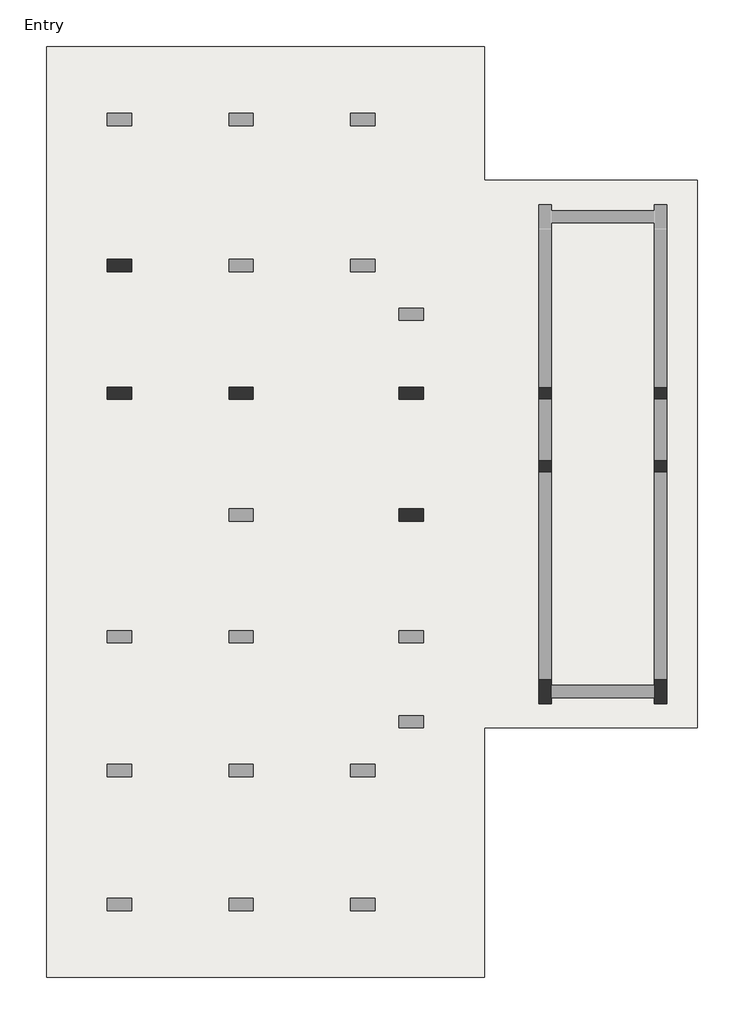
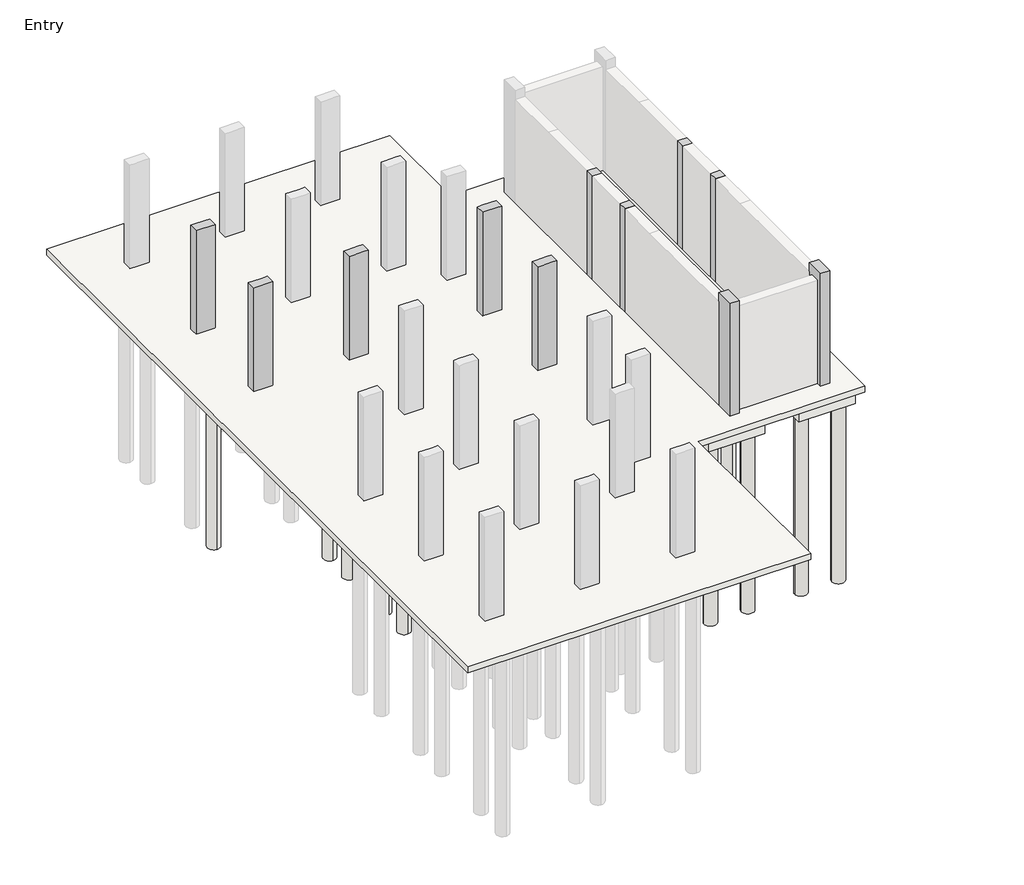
# One storey, part 2 of 3: 31 slabs, 14 columns, 4 footings.
"""IFC4 building model written with IfcOpenShell, lengths in millimetres."""

import ifcopenshell
import ifcopenshell.guid

model = None  # the IFC model being written
_history = None  # IfcOwnerHistory: only IFC2X3 demands one
_inside = {}  # id of a spatial element -> (the spatial element, [elements in it])
_under = {}  # id of a project, library or spatial element -> (it, [spatial elements below it])
_declared = {}  # id of a project -> (the project, [libraries it declares])
_typed = {}  # id of a type object -> (the type object, [elements of that type])
_made_of = {}  # id of a material, layer set ... -> (it, [elements and type objects made of it])


def new_model(schema):
    """Start an empty IFC model of exactly this schema.

    Asked for "IFC4X3", IfcOpenShell would pick the latest addendum, in which some entities
    have other attributes; the version numbers below select the first issue.
    IFC2X3 requires an IfcOwnerHistory on every rooted entity: one is made here for all.
    """
    global model, _history
    if schema == "IFC4X3":
        model = ifcopenshell.file(schema_version=(4, 3, 0, 0))
    else:
        model = ifcopenshell.file(schema=schema)
    _inside.clear()
    _under.clear()
    _declared.clear()
    _typed.clear()
    _made_of.clear()
    _history = None
    if model.schema == "IFC2X3":
        org = make("IfcOrganization", Name="unknown")
        user = make(
            "IfcPersonAndOrganization",
            ThePerson=make("IfcPerson", FamilyName="unknown"),
            TheOrganization=org,
        )
        app = make(
            "IfcApplication",
            ApplicationDeveloper=org,
            Version="unknown",
            ApplicationFullName="unknown",
            ApplicationIdentifier="unknown",
        )
        _history = make(
            "IfcOwnerHistory",
            OwningUser=user,
            OwningApplication=app,
            ChangeAction="ADDED",
            CreationDate=0,
        )
    return model


def make(cls, **values):
    """One entity of the class cls with the attributes given. An attribute that is None is left unset."""
    return model.create_entity(
        cls, **{name: value for name, value in values.items() if value is not None}
    )


def rooted(cls, **values):
    """An entity with a GlobalId (a new one), such as an element, a storey or a relation."""
    return make(cls, GlobalId=ifcopenshell.guid.new(), OwnerHistory=_history, **values)


def si_unit(unit_type, name, prefix=None):
    """IfcSIUnit, for example si_unit("LENGTHUNIT", "METRE", prefix="MILLI")."""
    return make("IfcSIUnit", UnitType=unit_type, Prefix=prefix, Name=name)


def assignment(units):
    """IfcUnitAssignment: the units of a project."""
    return None if units is None else make("IfcUnitAssignment", Units=units)


def point(xyz):
    """IfcCartesianPoint."""
    return None if xyz is None else make("IfcCartesianPoint", Coordinates=xyz)


def direction(xyz):
    """IfcDirection."""
    return None if xyz is None else make("IfcDirection", DirectionRatios=xyz)


def frame(location, z_axis=None, x_axis=None):
    """IfcAxis2Placement3D, a coordinate frame: its origin and axes. An axis left out is left unset."""
    return make(
        "IfcAxis2Placement3D",
        Location=point(location),
        Axis=direction(z_axis),
        RefDirection=direction(x_axis),
    )


def frame_2d(location, x_axis=None):
    """IfcAxis2Placement2D, a coordinate frame in the plane: its origin and x axis."""
    return make(
        "IfcAxis2Placement2D", Location=point(location), RefDirection=direction(x_axis)
    )


def origin():
    """The frame at (0, 0, 0) with its axes left unset."""
    return frame((0.0, 0.0, 0.0))


def origin_with_axes():
    """The frame at (0, 0, 0) with the z axis (0, 0, 1) and the x axis (1, 0, 0) written out."""
    return frame((0.0, 0.0, 0.0), z_axis=(0.0, 0.0, 1.0), x_axis=(1.0, 0.0, 0.0))


def place(relative_to, where):
    """IfcLocalPlacement: puts the frame where relative to a parent placement (None: the world)."""
    return make(
        "IfcLocalPlacement", PlacementRelTo=relative_to, RelativePlacement=where
    )


def context(
    kind, dimensions, precision=None, world=None, true_north=None, identifier=None
):
    """IfcGeometricRepresentationContext, for example the 3D "Model" context."""
    return make(
        "IfcGeometricRepresentationContext",
        ContextIdentifier=identifier,
        ContextType=kind,
        CoordinateSpaceDimension=dimensions,
        Precision=precision,
        WorldCoordinateSystem=world,
        TrueNorth=true_north,
    )


def project(units=None, contexts=None):
    """IfcProject with its units and contexts."""
    return rooted(
        "IfcProject",
        Name="project",
        RepresentationContexts=contexts,
        UnitsInContext=assignment(units),
    )


def spatial(cls, under=None, at=None, **own):
    """A site, building, storey or space (cls), placed at a placement, below another one or the project."""
    s = rooted(cls, ObjectPlacement=at, **own)
    if under is not None:
        _under.setdefault(under.id(), (under, []))[1].append(s)
    return s


def polyline(points):
    """IfcPolyline through the points."""
    return make("IfcPolyline", Points=[point(p) for p in points])


def circle_curve(where, radius):
    """IfcCircle in the frame where."""
    return make("IfcCircle", Position=where, Radius=radius)


def trimmed(basis, trim1, trim2, sense, master):
    """IfcTrimmedCurve: the piece of a basis curve between two trims."""
    return make(
        "IfcTrimmedCurve",
        BasisCurve=basis,
        Trim1=trim1,
        Trim2=trim2,
        SenseAgreement=sense,
        MasterRepresentation=master,
    )


def segment(curve, same_sense, transition):
    """IfcCompositeCurveSegment."""
    return make(
        "IfcCompositeCurveSegment",
        Transition=transition,
        SameSense=same_sense,
        ParentCurve=curve,
    )


def composite_curve(segments, self_intersect=None):
    """IfcCompositeCurve: segments joined end to end."""
    return make("IfcCompositeCurve", Segments=segments, SelfIntersect=self_intersect)


def outline(outer, holes=None, kind="AREA"):
    """IfcArbitraryClosedProfileDef: a profile drawn as a closed curve; with holes, ...WithVoids."""
    if holes is None:
        return make("IfcArbitraryClosedProfileDef", ProfileType=kind, OuterCurve=outer)
    return make(
        "IfcArbitraryProfileDefWithVoids",
        ProfileType=kind,
        OuterCurve=outer,
        InnerCurves=holes,
    )


def extrude(swept, where, along, depth):
    """IfcExtrudedAreaSolid: the profile swept, set in the frame where, extruded along a direction by depth."""
    return make(
        "IfcExtrudedAreaSolid",
        SweptArea=swept,
        Position=where,
        ExtrudedDirection=direction(along),
        Depth=depth,
    )


def faces_of(points, faces, orient=None, outer=None):
    """IfcFace entities. A face is a list of loops; a loop is a list of indices into points, from 0.

    orient and outer hold one flag for each loop. By default every Orientation is true, the
    first loop of a face is its IfcFaceOuterBound and the others are IfcFaceBound.
    """
    made = []
    for i, loops in enumerate(faces):
        bounds = []
        for j, loop in enumerate(loops):
            is_outer = j == 0 if outer is None else outer[i][j]
            bounds.append(
                make(
                    "IfcFaceOuterBound" if is_outer else "IfcFaceBound",
                    Bound=make("IfcPolyLoop", Polygon=[points[k] for k in loop]),
                    Orientation=True if orient is None else orient[i][j],
                )
            )
        made.append(make("IfcFace", Bounds=bounds))
    return made


def faceted_brep(points, faces, orient=None, outer=None, voids=None):
    """IfcFacetedBrep: a solid bounded by flat faces; with voids (closed shells), ...WithVoids."""
    shared = [point(p) for p in points]
    hull = make("IfcClosedShell", CfsFaces=faces_of(shared, faces, orient, outer))
    if voids is None:
        return make("IfcFacetedBrep", Outer=hull)
    return make(
        "IfcFacetedBrepWithVoids",
        Outer=hull,
        Voids=[
            make(cls, CfsFaces=faces_of(shared, fs, o, b)) for cls, fs, o, b in voids
        ],
    )


def shape(context_of_items, identifier, shape_type, items):
    """IfcShapeRepresentation: the items that make up one representation, for example the "Body"."""
    return make(
        "IfcShapeRepresentation",
        ContextOfItems=context_of_items,
        RepresentationIdentifier=identifier,
        RepresentationType=shape_type,
        Items=items,
    )


def made_of(thing, what):
    """Note that an element or type object is made of a material, layer set ...; save() writes the relation."""
    if what is not None:
        _made_of.setdefault(what.id(), (what, []))[1].append(thing)
    return thing


def element(
    cls,
    number,
    at=None,
    inside=None,
    cuts=None,
    type_object=None,
    material=None,
    context=None,
    identifier="Body",
    shape_type=None,
    held_by="IfcProductDefinitionShape",
    body=None,
    shapes=None,
    **own,
):
    """One element of the class cls, such as IfcWall. Its Tag is "e" and its number.

    at: its placement. inside: the storey or other place that contains it. cuts: it is an
    opening in that element (IfcRelVoidsElement). A single representation is given by context,
    identifier, shape_type and body (its items); several are given by shapes. held_by: the class
    of the entity that holds the representations. save() writes the other relations.
    """
    e = rooted(cls, Tag="e%d" % number, ObjectPlacement=at, **own)
    if body is not None:
        shapes = [shape(context, identifier, shape_type, body)]
    if shapes is not None:
        e.Representation = make(held_by, Representations=shapes)
    if inside is not None:
        _inside.setdefault(inside.id(), (inside, []))[1].append(e)
    if cuts is not None:
        rooted(
            "IfcRelVoidsElement", RelatingBuildingElement=cuts, RelatedOpeningElement=e
        )
    if type_object is not None:
        _typed.setdefault(type_object.id(), (type_object, []))[1].append(e)
    return made_of(e, material)


def aggregate(whole, parts):
    """IfcRelAggregates: a whole, such as a stair, and the parts it consists of."""
    return rooted("IfcRelAggregates", RelatingObject=whole, RelatedObjects=parts)


def save(model, path):
    """Write the relations noted so far, then the file.

    IfcRelAggregates (storeys below a building ...), IfcRelContainedInSpatialStructure (elements
    in a storey), IfcRelDefinesByType, IfcRelAssociatesMaterial and IfcRelDeclares: one each for
    every whole, place, type object, material and project.
    """
    for whole, parts in _under.values():
        aggregate(whole, parts)
    for where, things in _inside.values():
        rooted(
            "IfcRelContainedInSpatialStructure",
            RelatedElements=things,
            RelatingStructure=where,
        )
    for kind, things in _typed.values():
        rooted("IfcRelDefinesByType", RelatedObjects=things, RelatingType=kind)
    for what, things in _made_of.values():
        rooted("IfcRelAssociatesMaterial", RelatedObjects=things, RelatingMaterial=what)
    for by, libraries in _declared.values():
        rooted("IfcRelDeclares", RelatingContext=by, RelatedDefinitions=libraries)
    model.write(path)


model = new_model("IFC4")

# Units and contexts
model_context = context("Model", 3, world=origin())
ifc_project = project(units=[si_unit("LENGTHUNIT", "METRE", prefix="MILLI")], contexts=[model_context])

# Site, building, storey
site = spatial("IfcSite", under=ifc_project)
building = spatial("IfcBuilding", under=site)
storey = spatial("IfcBuildingStorey", under=building, Name="Entry", Elevation=0.0)

# Columns
placement = place(None, origin())
element("IfcColumn", 1, ObjectType="Concrete-Rectangular-Column : 12 x 24", at=placement, inside=storey, context=model_context, shape_type="Brep", body=[
    faceted_brep([(-15677.5554735, 10989.3867088, 0.0), (-15067.9554735, 10989.3867088, 0.0), (-15067.9554735, 10684.5867088, 0.0), (-15677.5554735, 10684.5867088, 0.0), (-15677.5554735, 10989.3867088, 3505.2), (-15525.1554735, 10989.3867088, 3505.2), (-15220.3554735, 10989.3867088, 3505.2), (-15067.9554735, 10989.3867088, 3505.2), (-15067.9554735, 10989.3867088, 2895.6), (-15067.9554735, 10684.5867088, 3505.2), (-15067.9554735, 10684.5867088, 2895.6), (-15220.3554735, 10684.5867088, 3505.2), (-15525.1554735, 10684.5867088, 3505.2), (-15677.5554735, 10684.5867088, 3505.2)], [[[0, 1, 2, 3]], [[4, 5, 6, 7, 8, 1, 0]], [[7, 9, 10, 2, 1, 8]], [[9, 11, 12, 13, 3, 2, 10]], [[13, 4, 0, 3]], [[4, 13, 12, 11, 9, 7, 6, 5]]]),
])
element("IfcColumn", 2, ObjectType="Concrete-Rectangular-Column : 12 x 24", at=placement, inside=storey, context=model_context, shape_type="Brep", body=[
    faceted_brep([(-8362.3554735, 7788.9867088, 0.0), (-7752.7554735, 7788.9867088, 0.0), (-7752.7554735, 7484.1867088, 0.0), (-8362.3554735, 7484.1867088, 0.0), (-8362.3554735, 7788.9867088, 3505.2), (-8209.9554735, 7788.9867088, 3505.2), (-7905.1554735, 7788.9867088, 3505.2), (-7752.7554735, 7788.9867088, 3505.2), (-7752.7554735, 7788.9867088, 2895.6), (-8362.3554735, 7788.9867088, 2895.6), (-7752.7554735, 7484.1867088, 3505.2), (-7752.7554735, 7484.1867088, 2895.6), (-7905.1554735, 7484.1867088, 3505.2), (-8209.9554735, 7484.1867088, 3505.2), (-8362.3554735, 7484.1867088, 3505.2), (-8362.3554735, 7484.1867088, 2895.6)], [[[0, 1, 2, 3]], [[4, 5, 6, 7, 8, 1, 0, 9]], [[7, 10, 11, 2, 1, 8]], [[10, 12, 13, 14, 15, 3, 2, 11]], [[14, 4, 9, 0, 3, 15]], [[4, 14, 13, 12, 10, 7, 6, 5]]]),
])
element("IfcColumn", 3, ObjectType="Concrete-Rectangular-Column : 12 x 24", at=placement, inside=storey, context=model_context, shape_type="Brep", body=[
    faceted_brep([(-15677.5554735, 7788.9867088, 0.0), (-15067.9554735, 7788.9867088, 0.0), (-15067.9554735, 7484.1867088, 0.0), (-15677.5554735, 7484.1867088, 0.0), (-15677.5554735, 7788.9867088, 3505.2), (-15525.1554735, 7788.9867088, 3505.2), (-15220.3554735, 7788.9867088, 3505.2), (-15067.9554735, 7788.9867088, 3505.2), (-15067.9554735, 7788.9867088, 2895.6), (-15067.9554735, 7484.1867088, 3505.2), (-15067.9554735, 7484.1867088, 2895.6), (-15677.5554735, 7484.1867088, 3505.2)], [[[0, 1, 2, 3]], [[4, 5, 6, 7, 8, 1, 0]], [[7, 9, 10, 2, 1, 8]], [[9, 11, 3, 2, 10]], [[11, 4, 0, 3]], [[4, 11, 9, 7, 6, 5]]]),
])
element("IfcColumn", 4, ObjectType="Concrete-Rectangular-Column : 12 x 24", at=placement, inside=storey, context=model_context, shape_type="Brep", body=[
    faceted_brep([(-12629.5554735, 7788.9867088, 0.0), (-12019.9554735, 7788.9867088, 0.0), (-12019.9554735, 7484.1867088, 0.0), (-12629.5554735, 7484.1867088, 0.0), (-12629.5554735, 7788.9867088, 3505.2), (-12477.1554735, 7788.9867088, 3505.2), (-12172.3554735, 7788.9867088, 3505.2), (-12019.9554735, 7788.9867088, 3505.2), (-12019.9554735, 7788.9867088, 2895.6), (-12629.5554735, 7788.9867088, 2895.6), (-12019.9554735, 7484.1867088, 3505.2), (-12019.9554735, 7484.1867088, 2895.6), (-12172.3554735, 7484.1867088, 3505.2), (-12477.1554735, 7484.1867088, 3505.2), (-12629.5554735, 7484.1867088, 3505.2), (-12629.5554735, 7484.1867088, 2895.6)], [[[0, 1, 2, 3]], [[4, 5, 6, 7, 8, 1, 0, 9]], [[7, 10, 11, 2, 1, 8]], [[10, 12, 13, 14, 15, 3, 2, 11]], [[14, 4, 9, 0, 3, 15]], [[4, 14, 13, 12, 10, 7, 6, 5]]]),
])
element("IfcColumn", 5, ObjectType="Concrete-Rectangular-Column : 12 x 24", at=placement, inside=storey, context=model_context, shape_type="Brep", body=[
    faceted_brep([(-8362.3554735, 4740.9867088, 0.0), (-7752.7554735, 4740.9867088, 0.0), (-7752.7554735, 4436.1867088, 0.0), (-8362.3554735, 4436.1867088, 0.0), (-8362.3554735, 4740.9867088, 3505.2), (-8209.9554735, 4740.9867088, 3505.2), (-7905.1554735, 4740.9867088, 3505.2), (-7752.7554735, 4740.9867088, 3505.2), (-8362.3554735, 4740.9867088, 2895.6), (-7752.7554735, 4436.1867088, 3505.2), (-7905.1554735, 4436.1867088, 3505.2), (-8209.9554735, 4436.1867088, 3505.2), (-8362.3554735, 4436.1867088, 3505.2), (-8362.3554735, 4436.1867088, 2895.6)], [[[0, 1, 2, 3]], [[4, 5, 6, 7, 1, 0, 8]], [[7, 9, 2, 1]], [[9, 10, 11, 12, 13, 3, 2]], [[12, 4, 8, 0, 3, 13]], [[4, 12, 11, 10, 9, 7, 6, 5]]]),
])
element("IfcColumn", 6, ObjectType="Concrete-Rectangular-Column : 12 x 24", at=placement, inside=storey, context=model_context, shape_type="SweptSolid", body=[
    extrude(outline(polyline([(-4857.1554735, 7788.9867088), (-4552.3554735, 7788.9867088), (-4552.3554735, 7484.1867088), (-4857.1554735, 7484.1867088), (-4857.1554735, 7788.9867088)])), origin_with_axes(), (0.0, 0.0, 1.0), 3505.2),
])
element("IfcColumn", 7, ObjectType="Concrete-Rectangular-Column : 12 x 24", at=placement, inside=storey, context=model_context, shape_type="SweptSolid", body=[
    extrude(outline(polyline([(-4552.3554735, 5655.3867088), (-4857.1554735, 5655.3867088), (-4857.1554735, 5960.1867088), (-4552.3554735, 5960.1867088), (-4552.3554735, 5655.3867088)])), origin_with_axes(), (0.0, 0.0, 1.0), 3505.2),
])
element("IfcColumn", 8, ObjectType="Concrete-Rectangular-Column : 12 x 24", at=placement, inside=storey, context=model_context, shape_type="Brep", body=[
    faceted_brep([(-4552.3554735, 473.7867088, 0.0), (-4552.3554735, 321.3867088, 0.0), (-4552.3554735, 16.5867088, 0.0), (-4552.3554735, -135.8132912, 0.0), (-4857.1554735, -135.8132912, 0.0), (-4857.1554735, 473.7867088, 0.0), (-4552.3554735, 473.7867088, 3810.0), (-4552.3554735, -135.8132912, 3810.0), (-4552.3554735, 473.7867088, 3505.2), (-4857.1554735, -135.8132912, 3810.0), (-4857.1554735, 473.7867088, 3810.0), (-4857.1554735, 473.7867088, 3505.2)], [[[0, 1, 2, 3, 4, 5]], [[6, 7, 3, 2, 1, 0, 8]], [[7, 9, 4, 3]], [[9, 10, 11, 5, 4]], [[10, 6, 8, 0, 5, 11]], [[6, 10, 9, 7]]]),
])
element("IfcColumn", 9, ObjectType="Concrete-Rectangular-Column : 12 x 24", at=placement, inside=storey, context=model_context, shape_type="Brep", body=[
    faceted_brep([(-1656.7554735, 473.7867088, 0.0), (-1656.7554735, -135.8132912, 0.0), (-1961.5554735, -135.8132912, 0.0), (-1961.5554735, 16.5867088, 0.0), (-1961.5554735, 321.3867088, 0.0), (-1961.5554735, 473.7867088, 0.0), (-1656.7554735, 473.7867088, 3810.0), (-1656.7554735, -135.8132912, 3810.0), (-1656.7554735, 473.7867088, 3505.2), (-1961.5554735, -135.8132912, 3810.0), (-1961.5554735, 473.7867088, 3810.0), (-1961.5554735, 473.7867088, 3505.2)], [[[0, 1, 2, 3, 4, 5]], [[6, 7, 1, 0, 8]], [[7, 9, 2, 1]], [[9, 10, 11, 5, 4, 3, 2]], [[10, 6, 8, 0, 5, 11]], [[6, 10, 9, 7]]]),
])
element("IfcColumn", 10, ObjectType="Concrete-Rectangular-Column : 12 x 24", at=placement, inside=storey, context=model_context, shape_type="SweptSolid", body=[
    extrude(outline(polyline([(-1961.5554735, 7788.9867088), (-1656.7554735, 7788.9867088), (-1656.7554735, 7484.1867088), (-1961.5554735, 7484.1867088), (-1961.5554735, 7788.9867088)])), origin_with_axes(), (0.0, 0.0, 1.0), 3505.2),
])
element("IfcColumn", 11, ObjectType="Concrete-Rectangular-Column : 12 x 24", at=placement, inside=storey, context=model_context, shape_type="SweptSolid", body=[
    extrude(outline(polyline([(-1961.5554735, 5960.1867088), (-1656.7554735, 5960.1867088), (-1656.7554735, 5655.3867088), (-1961.5554735, 5655.3867088), (-1961.5554735, 5960.1867088)])), origin_with_axes(), (0.0, 0.0, 1.0), 3505.2),
])
element("IfcColumn", 12, ObjectType="Concrete-Rectangular-Column : 12 x 24", at=placement, inside=storey, context=model_context, shape_type="Brep", body=[
    faceted_brep([(-15677.5554735, 10989.3867088, 0.0), (-15067.9554735, 10989.3867088, 0.0), (-15067.9554735, 10684.5867088, 0.0), (-15677.5554735, 10684.5867088, 0.0), (-15677.5554735, 10989.3867088, 3505.2), (-15525.1554735, 10989.3867088, 3505.2), (-15220.3554735, 10989.3867088, 3505.2), (-15067.9554735, 10989.3867088, 3505.2), (-15067.9554735, 10989.3867088, 2895.6), (-15067.9554735, 10684.5867088, 3505.2), (-15067.9554735, 10684.5867088, 2895.6), (-15220.3554735, 10684.5867088, 3505.2), (-15525.1554735, 10684.5867088, 3505.2), (-15677.5554735, 10684.5867088, 3505.2)], [[[0, 1, 2, 3]], [[4, 5, 6, 7, 8, 1, 0]], [[7, 9, 10, 2, 1, 8]], [[9, 11, 12, 13, 3, 2, 10]], [[13, 4, 0, 3]], [[4, 13, 12, 11, 9, 7, 6, 5]]]),
])
element("IfcColumn", 13, ObjectType="Concrete-Rectangular-Column : 12 x 24", at=placement, inside=storey, context=model_context, shape_type="Brep", body=[
    faceted_brep([(-8362.3554735, 7788.9867088, 0.0), (-7752.7554735, 7788.9867088, 0.0), (-7752.7554735, 7484.1867088, 0.0), (-8362.3554735, 7484.1867088, 0.0), (-8362.3554735, 7788.9867088, 3505.2), (-8209.9554735, 7788.9867088, 3505.2), (-7905.1554735, 7788.9867088, 3505.2), (-7752.7554735, 7788.9867088, 3505.2), (-7752.7554735, 7788.9867088, 2895.6), (-8362.3554735, 7788.9867088, 2895.6), (-7752.7554735, 7484.1867088, 3505.2), (-7752.7554735, 7484.1867088, 2895.6), (-7905.1554735, 7484.1867088, 3505.2), (-8209.9554735, 7484.1867088, 3505.2), (-8362.3554735, 7484.1867088, 3505.2), (-8362.3554735, 7484.1867088, 2895.6)], [[[0, 1, 2, 3]], [[4, 5, 6, 7, 8, 1, 0, 9]], [[7, 10, 11, 2, 1, 8]], [[10, 12, 13, 14, 15, 3, 2, 11]], [[14, 4, 9, 0, 3, 15]], [[4, 14, 13, 12, 10, 7, 6, 5]]]),
])
element("IfcColumn", 14, ObjectType="Concrete-Rectangular-Column : 12 x 24", at=placement, inside=storey, context=model_context, shape_type="Brep", body=[
    faceted_brep([(-12629.5554735, 7788.9867088, 0.0), (-12019.9554735, 7788.9867088, 0.0), (-12019.9554735, 7484.1867088, 0.0), (-12629.5554735, 7484.1867088, 0.0), (-12629.5554735, 7788.9867088, 3505.2), (-12477.1554735, 7788.9867088, 3505.2), (-12172.3554735, 7788.9867088, 3505.2), (-12019.9554735, 7788.9867088, 3505.2), (-12019.9554735, 7788.9867088, 2895.6), (-12629.5554735, 7788.9867088, 2895.6), (-12019.9554735, 7484.1867088, 3505.2), (-12019.9554735, 7484.1867088, 2895.6), (-12172.3554735, 7484.1867088, 3505.2), (-12477.1554735, 7484.1867088, 3505.2), (-12629.5554735, 7484.1867088, 3505.2), (-12629.5554735, 7484.1867088, 2895.6)], [[[0, 1, 2, 3]], [[4, 5, 6, 7, 8, 1, 0, 9]], [[7, 10, 11, 2, 1, 8]], [[10, 12, 13, 14, 15, 3, 2, 11]], [[14, 4, 9, 0, 3, 15]], [[4, 14, 13, 12, 10, 7, 6, 5]]]),
])

# Footings
element("IfcFooting", 15, ObjectType="Bearing Footing - 36\" x 12\"", at=placement, inside=storey, context=model_context, shape_type="Brep", body=[
    faceted_brep([(-1351.9554735, 5655.3867088, -304.8), (-1402.7554735, 5655.3867088, -304.8), (-1402.7554735, 5655.3867088, -203.2), (-1351.9554735, 5655.3867088, -203.2), (-2215.5554735, 5655.3867088, -304.8), (-2266.3554735, 5655.3867088, -304.8), (-2266.3554735, 5655.3867088, -203.2), (-2215.5554735, 5655.3867088, -203.2), (-2266.3554735, 626.1867088, -304.8), (-2266.3554735, 575.3867088, -304.8), (-2266.3554735, 575.3867088, -203.2), (-2266.3554735, 626.1867088, -203.2), (-1351.9554735, 575.3867088, -304.8), (-2215.5554735, 4906.0867088, -304.8), (-1402.7554735, 4906.0867088, -304.8), (-1351.9554735, 575.3867088, -203.2), (-1402.7554735, 4906.0867088, -203.2), (-2215.5554735, 4906.0867088, -203.2)], [[[0, 1, 2, 3]], [[4, 5, 6, 7]], [[5, 8, 9, 10, 11, 6]], [[1, 0, 12, 9, 8, 5, 4, 13, 14]], [[12, 0, 3, 15]], [[7, 6, 11, 10, 15, 3, 2, 16, 17]], [[1, 14, 16, 2]], [[13, 4, 7, 17]], [[14, 13, 17, 16]], [[9, 12, 15, 10]]]),
])
element("IfcFooting", 16, ObjectType="Bearing Footing - 36\" x 12\"", at=placement, inside=storey, context=model_context, shape_type="Brep", body=[
    faceted_brep([(-4552.3554735, -237.4132912, -304.8), (-4552.3554735, -288.2132912, -304.8), (-4552.3554735, -288.2132912, -203.2), (-4552.3554735, -237.4132912, -203.2), (-4552.3554735, 626.1867088, -304.8), (-4552.3554735, 575.3867088, -304.8), (-4552.3554735, 575.3867088, -203.2), (-4552.3554735, 626.1867088, -203.2), (-1961.5554735, -288.2132912, -304.8), (-1961.5554735, -237.4132912, -304.8), (-1961.5554735, -237.4132912, -203.2), (-1961.5554735, -288.2132912, -203.2), (-2266.3554735, 626.1867088, -304.8), (-4247.5554735, 626.1867088, -304.8), (-4247.5554735, 626.1867088, -203.2), (-2266.3554735, 626.1867088, -203.2), (-3803.0554735, -237.4132912, -304.8), (-3803.0554735, 575.3867088, -304.8), (-2266.3554735, 575.3867088, -304.8), (-2710.8554735, 575.3867088, -304.8), (-2710.8554735, -237.4132912, -304.8), (-2266.3554735, 575.3867088, -203.2), (-3803.0554735, 575.3867088, -203.2), (-3803.0554735, -237.4132912, -203.2), (-2710.8554735, -237.4132912, -203.2), (-2710.8554735, 575.3867088, -203.2)], [[[0, 1, 2, 3]], [[4, 5, 6, 7]], [[8, 9, 10, 11]], [[12, 13, 4, 7, 14, 15]], [[8, 1, 0, 16, 17, 5, 4, 13, 12, 18, 19, 20, 9]], [[1, 8, 11, 2]], [[18, 12, 15, 21]], [[7, 6, 22, 23, 3, 2, 11, 10, 24, 25, 21, 15, 14]], [[5, 17, 22, 6]], [[16, 0, 3, 23]], [[17, 16, 23, 22]], [[19, 18, 21, 25]], [[20, 19, 25, 24]], [[9, 20, 24, 10]]]),
])
element("IfcFooting", 17, ObjectType="Bearing Footing - 36\" x 12\"", at=placement, inside=storey, context=model_context, shape_type="SweptSolid", body=[
    extrude(outline(polyline([(-4298.3554735, 5655.3867088), (-4247.5554735, 5655.3867088), (-4247.5554735, 626.1867088), (-4552.3554735, 626.1867088), (-4552.3554735, 575.3867088), (-5161.9554735, 575.3867088), (-5161.9554735, 5655.3867088), (-5111.1554735, 5655.3867088), (-5111.1554735, 4906.0867088), (-4298.3554735, 4906.0867088), (-4298.3554735, 5655.3867088)])), frame((0.0, 0.0, -304.8), z_axis=(0.0, 0.0, 1.0), x_axis=(1.0, 0.0, 0.0)), (0.0, 0.0, 1.0), 101.6),
])
element("IfcFooting", 18, ObjectType="Bearing Footing - 36\" x 12\"", at=placement, inside=storey, context=model_context, shape_type="SweptSolid", body=[
    extrude(outline(polyline([(-1351.9554735, 7484.1867088), (-1351.9554735, 5960.1867088), (-1402.7554735, 5960.1867088), (-1402.7554735, 6709.4867088), (-2215.5554735, 6709.4867088), (-2215.5554735, 5960.1867088), (-2266.3554735, 5960.1867088), (-2266.3554735, 7484.1867088), (-2215.5554735, 7484.1867088), (-2215.5554735, 6734.8867088), (-1402.7554735, 6734.8867088), (-1402.7554735, 7484.1867088), (-1351.9554735, 7484.1867088)])), frame((0.0, 0.0, -304.8), z_axis=(0.0, 0.0, 1.0), x_axis=(1.0, 0.0, 0.0)), (0.0, 0.0, 1.0), 101.6),
])

# Slabs
element("IfcSlab", 19, ObjectType="8\" Foundation Slab", at=placement, inside=storey, context=model_context, shape_type="SweptSolid", body=[
    extrude(outline(polyline([(-6228.7554735, 16323.3867088), (-6228.7554735, 12970.5867088), (-894.7554735, 12970.5867088), (-894.7554735, -745.4132912), (-6228.7554735, -745.4132912), (-6228.7554735, -6993.8132912), (-17201.5554735, -6993.8132912), (-17201.5554735, 16323.3867088), (-6228.7554735, 16323.3867088)])), frame((0.0, 0.0, -203.2), z_axis=(0.0, 0.0, 1.0), x_axis=(1.0, 0.0, 0.0)), (0.0, 0.0, 1.0), 203.2),
])
element("IfcSlab", 20, ObjectType="Pile Cap-2 Pile : 31\"x61\"x35\"", at=placement, inside=storey, context=model_context, shape_type="SweptSolid", body=[
    extrude(outline(polyline([(-15779.1554735, 11738.6867088), (-14966.3554735, 11738.6867088), (-14966.3554735, 9935.2867088), (-15779.1554735, 9935.2867088), (-15779.1554735, 11738.6867088)])), frame((0.0, 0.0, -889.0), z_axis=(0.0, 0.0, 1.0), x_axis=(1.0, 0.0, 0.0)), (0.0, 0.0, 1.0), 685.8),
])
element("IfcSlab", 21, ObjectType="Pile Cap-2 Pile : 31\"x61\"x35\"", at=placement, inside=storey, context=model_context, shape_type="SweptSolid", body=[
    extrude(outline(polyline([(-8463.9554735, 5490.2867088), (-7651.1554735, 5490.2867088), (-7651.1554735, 3686.8867088), (-8463.9554735, 3686.8867088), (-8463.9554735, 5490.2867088)])), frame((0.0, 0.0, -889.0), z_axis=(0.0, 0.0, 1.0), x_axis=(1.0, 0.0, 0.0)), (0.0, 0.0, 1.0), 685.8),
])
element("IfcSlab", 22, ObjectType="Pile Cap-2 Pile : 31\"x61\"x35\"", at=placement, inside=storey, context=model_context, shape_type="SweptSolid", body=[
    extrude(outline(polyline([(-8463.9554735, 8538.2867088), (-7651.1554735, 8538.2867088), (-7651.1554735, 6734.8867088), (-8463.9554735, 6734.8867088), (-8463.9554735, 8538.2867088)])), frame((0.0, 0.0, -889.0), z_axis=(0.0, 0.0, 1.0), x_axis=(1.0, 0.0, 0.0)), (0.0, 0.0, 1.0), 685.8),
])
element("IfcSlab", 23, ObjectType="Pile Cap-2 Pile : 31\"x61\"x35\"", at=placement, inside=storey, context=model_context, shape_type="Brep", body=[
    faceted_brep([(-5111.1554735, 8538.2867088, -889.0), (-4298.3554735, 8538.2867088, -889.0), (-4298.3554735, 6734.8867088, -889.0), (-5111.1554735, 6734.8867088, -889.0), (-5111.1554735, 6734.8867088, -203.2), (-5111.1554735, 7788.9867088, -203.2), (-5111.1554735, 8538.2867088, -203.2), (-5111.1554735, 8538.2867088, -304.8), (-4298.3554735, 6734.8867088, -203.2), (-4298.3554735, 8538.2867088, -304.8), (-4298.3554735, 8538.2867088, -203.2), (-4298.3554735, 7788.9867088, -203.2)], [[[0, 1, 2, 3]], [[0, 3, 4, 5, 6, 7]], [[3, 2, 8, 4]], [[2, 1, 9, 10, 11, 8]], [[1, 0, 7, 6, 10, 9]], [[6, 5, 4, 8, 11, 10]]]),
])
element("IfcSlab", 24, ObjectType="Pile Cap-2 Pile : 31\"x61\"x35\"", at=placement, inside=storey, context=model_context, shape_type="Brep", body=[
    faceted_brep([(-2215.5554735, 8538.2867088, -889.0), (-1402.7554735, 8538.2867088, -889.0), (-1402.7554735, 6734.8867088, -889.0), (-2215.5554735, 6734.8867088, -889.0), (-2215.5554735, 6734.8867088, -304.8), (-2215.5554735, 6734.8867088, -203.2), (-2215.5554735, 7484.1867088, -203.2), (-2215.5554735, 7788.9867088, -203.2), (-2215.5554735, 8538.2867088, -203.2), (-2215.5554735, 8538.2867088, -304.8), (-1402.7554735, 6734.8867088, -304.8), (-1402.7554735, 6734.8867088, -203.2), (-1402.7554735, 8538.2867088, -304.8), (-1402.7554735, 8538.2867088, -203.2), (-1402.7554735, 7788.9867088, -203.2), (-1402.7554735, 7484.1867088, -203.2)], [[[0, 1, 2, 3]], [[0, 3, 4, 5, 6, 7, 8, 9]], [[3, 2, 10, 11, 5, 4]], [[2, 1, 12, 13, 14, 15, 11, 10]], [[1, 0, 9, 8, 13, 12]], [[8, 7, 6, 5, 11, 15, 14, 13]]]),
])
element("IfcSlab", 25, ObjectType="Pile Cap-2 Pile : 31\"x61\"x35\"", at=placement, inside=storey, context=model_context, shape_type="Brep", body=[
    faceted_brep([(-4298.3554735, 4906.0867088, -889.0), (-5111.1554735, 4906.0867088, -889.0), (-5111.1554735, 6709.4867088, -889.0), (-4298.3554735, 6709.4867088, -889.0), (-4298.3554735, 6709.4867088, -203.2), (-4298.3554735, 5655.3867088, -203.2), (-4298.3554735, 4906.0867088, -203.2), (-4298.3554735, 4906.0867088, -304.8), (-5111.1554735, 6709.4867088, -203.2), (-5111.1554735, 4906.0867088, -304.8), (-5111.1554735, 4906.0867088, -203.2), (-5111.1554735, 5655.3867088, -203.2)], [[[0, 1, 2, 3]], [[0, 3, 4, 5, 6, 7]], [[3, 2, 8, 4]], [[2, 1, 9, 10, 11, 8]], [[1, 0, 7, 6, 10, 9]], [[6, 5, 4, 8, 11, 10]]]),
])
element("IfcSlab", 26, ObjectType="Pile Cap-2 Pile : 31\"x61\"x35\"", at=placement, inside=storey, context=model_context, shape_type="Brep", body=[
    faceted_brep([(-1402.7554735, 4906.0867088, -889.0), (-2215.5554735, 4906.0867088, -889.0), (-2215.5554735, 6709.4867088, -889.0), (-1402.7554735, 6709.4867088, -889.0), (-1402.7554735, 6709.4867088, -304.8), (-1402.7554735, 6709.4867088, -203.2), (-1402.7554735, 5960.1867088, -203.2), (-1402.7554735, 5655.3867088, -203.2), (-1402.7554735, 4906.0867088, -203.2), (-1402.7554735, 4906.0867088, -304.8), (-2215.5554735, 6709.4867088, -304.8), (-2215.5554735, 6709.4867088, -203.2), (-2215.5554735, 4906.0867088, -304.8), (-2215.5554735, 4906.0867088, -203.2), (-2215.5554735, 5655.3867088, -203.2), (-2215.5554735, 5960.1867088, -203.2)], [[[0, 1, 2, 3]], [[0, 3, 4, 5, 6, 7, 8, 9]], [[3, 2, 10, 11, 5, 4]], [[2, 1, 12, 13, 14, 15, 11, 10]], [[1, 0, 9, 8, 13, 12]], [[8, 7, 6, 5, 11, 15, 14, 13]]]),
])
element("IfcSlab", 27, ObjectType="Pile Cap-2 Pile : 31\"x61\"x35\"", at=placement, inside=storey, context=model_context, shape_type="Brep", body=[
    faceted_brep([(-3803.0554735, 575.3867088, -889.0), (-3803.0554735, -237.4132912, -889.0), (-5606.4554735, -237.4132912, -889.0), (-5606.4554735, 575.3867088, -889.0), (-5606.4554735, 575.3867088, -203.2), (-5161.9554735, 575.3867088, -203.2), (-4552.3554735, 575.3867088, -203.2), (-3803.0554735, 575.3867088, -203.2), (-3803.0554735, 575.3867088, -304.8), (-5606.4554735, -237.4132912, -203.2), (-3803.0554735, -237.4132912, -304.8), (-3803.0554735, -237.4132912, -203.2), (-4552.3554735, -237.4132912, -203.2)], [[[0, 1, 2, 3]], [[0, 3, 4, 5, 6, 7, 8]], [[3, 2, 9, 4]], [[2, 1, 10, 11, 12, 9]], [[1, 0, 8, 7, 11, 10]], [[7, 6, 5, 4, 9, 12, 11]]]),
])
element("IfcSlab", 28, ObjectType="Pile Cap-2 Pile : 31\"x61\"x35\"", at=placement, inside=storey, context=model_context, shape_type="Brep", body=[
    faceted_brep([(-907.4554735, 575.3867088, -889.0), (-907.4554735, -237.4132912, -889.0), (-2710.8554735, -237.4132912, -889.0), (-2710.8554735, 575.3867088, -889.0), (-2710.8554735, 575.3867088, -304.8), (-2710.8554735, 575.3867088, -203.2), (-2266.3554735, 575.3867088, -203.2), (-1351.9554735, 575.3867088, -203.2), (-907.4554735, 575.3867088, -203.2), (-2710.8554735, -237.4132912, -304.8), (-2710.8554735, -237.4132912, -203.2), (-907.4554735, -237.4132912, -203.2), (-1961.5554735, -237.4132912, -203.2)], [[[0, 1, 2, 3]], [[0, 3, 4, 5, 6, 7, 8]], [[3, 2, 9, 10, 5, 4]], [[2, 1, 11, 12, 10, 9]], [[1, 0, 8, 11]], [[8, 7, 6, 5, 10, 12, 11]]]),
])
element("IfcSlab", 29, ObjectType="Pile Cap-4 Pile : 72\"x72\"x35\"", at=placement, inside=storey, context=model_context, shape_type="SweptSolid", body=[
    extrude(outline(polyline([(-13239.1554735, 8550.9867088), (-11410.3554735, 8550.9867088), (-11410.3554735, 6722.1867088), (-13239.1554735, 6722.1867088), (-13239.1554735, 8550.9867088)])), frame((0.0, 0.0, -889.0), z_axis=(0.0, 0.0, 1.0), x_axis=(1.0, 0.0, 0.0)), (0.0, 0.0, 1.0), 685.8),
])
element("IfcSlab", 30, ObjectType="Pile-Steel Pipe : 16\" Diameter", at=placement, inside=storey, context=model_context, shape_type="SweptSolid", body=[
    extrude(outline(composite_curve([segment(trimmed(circle_curve(frame_2d((-12858.1554735, 7103.1867088)), 203.2), [point((-12858.1554735, 6899.9867088))], [point((-12858.1554735, 7306.3867088))], False, "CARTESIAN"), True, "CONTINUOUS"), segment(trimmed(circle_curve(frame_2d((-12858.1554735, 7103.1867088)), 203.2), [point((-12858.1554735, 7306.3867088))], [point((-12858.1554735, 6899.9867088))], False, "CARTESIAN"), True, "CONTINUOUS")], self_intersect=False)), frame((0.0, 0.0, -6985.0), z_axis=(0.0, 0.0, 1.0), x_axis=(1.0, 0.0, 0.0)), (0.0, 0.0, 1.0), 6096.0),
])
element("IfcSlab", 31, ObjectType="Pile-Steel Pipe : 16\" Diameter", at=placement, inside=storey, context=model_context, shape_type="SweptSolid", body=[
    extrude(outline(composite_curve([segment(trimmed(circle_curve(frame_2d((-11791.3554735, 7103.1867088)), 203.2), [point((-11791.3554735, 6899.9867088))], [point((-11791.3554735, 7306.3867088))], False, "CARTESIAN"), True, "CONTINUOUS"), segment(trimmed(circle_curve(frame_2d((-11791.3554735, 7103.1867088)), 203.2), [point((-11791.3554735, 7306.3867088))], [point((-11791.3554735, 6899.9867088))], False, "CARTESIAN"), True, "CONTINUOUS")], self_intersect=False)), frame((0.0, 0.0, -6985.0), z_axis=(0.0, 0.0, 1.0), x_axis=(1.0, 0.0, 0.0)), (0.0, 0.0, 1.0), 6096.0),
])
element("IfcSlab", 32, ObjectType="Pile-Steel Pipe : 16\" Diameter", at=placement, inside=storey, context=model_context, shape_type="SweptSolid", body=[
    extrude(outline(composite_curve([segment(trimmed(circle_curve(frame_2d((-12858.1554735, 8169.9867088)), 203.2), [point((-12858.1554735, 7966.7867088))], [point((-12858.1554735, 8373.1867088))], False, "CARTESIAN"), True, "CONTINUOUS"), segment(trimmed(circle_curve(frame_2d((-12858.1554735, 8169.9867088)), 203.2), [point((-12858.1554735, 8373.1867088))], [point((-12858.1554735, 7966.7867088))], False, "CARTESIAN"), True, "CONTINUOUS")], self_intersect=False)), frame((0.0, 0.0, -6985.0), z_axis=(0.0, 0.0, 1.0), x_axis=(1.0, 0.0, 0.0)), (0.0, 0.0, 1.0), 6096.0),
])
element("IfcSlab", 33, ObjectType="Pile-Steel Pipe : 16\" Diameter", at=placement, inside=storey, context=model_context, shape_type="SweptSolid", body=[
    extrude(outline(composite_curve([segment(trimmed(circle_curve(frame_2d((-12858.1554735, 4055.1867088)), 203.2), [point((-12858.1554735, 3851.9867088))], [point((-12858.1554735, 4258.3867088))], False, "CARTESIAN"), True, "CONTINUOUS"), segment(trimmed(circle_curve(frame_2d((-12858.1554735, 4055.1867088)), 203.2), [point((-12858.1554735, 4258.3867088))], [point((-12858.1554735, 3851.9867088))], False, "CARTESIAN"), True, "CONTINUOUS")], self_intersect=False)), frame((0.0, 0.0, -6985.0), z_axis=(0.0, 0.0, 1.0), x_axis=(1.0, 0.0, 0.0)), (0.0, 0.0, 1.0), 6096.0),
])
element("IfcSlab", 34, ObjectType="Pile-Steel Pipe : 16\" Diameter", at=placement, inside=storey, context=model_context, shape_type="SweptSolid", body=[
    extrude(outline(composite_curve([segment(trimmed(circle_curve(frame_2d((-11791.3554735, 4055.1867088)), 203.2), [point((-11791.3554735, 3851.9867088))], [point((-11791.3554735, 4258.3867088))], False, "CARTESIAN"), True, "CONTINUOUS"), segment(trimmed(circle_curve(frame_2d((-11791.3554735, 4055.1867088)), 203.2), [point((-11791.3554735, 4258.3867088))], [point((-11791.3554735, 3851.9867088))], False, "CARTESIAN"), True, "CONTINUOUS")], self_intersect=False)), frame((0.0, 0.0, -6985.0), z_axis=(0.0, 0.0, 1.0), x_axis=(1.0, 0.0, 0.0)), (0.0, 0.0, 1.0), 6096.0),
])
element("IfcSlab", 35, ObjectType="Pile-Steel Pipe : 16\" Diameter", at=placement, inside=storey, context=model_context, shape_type="SweptSolid", body=[
    extrude(outline(composite_curve([segment(trimmed(circle_curve(frame_2d((-11791.3554735, 5121.9867088)), 203.2), [point((-11791.3554735, 4918.7867088))], [point((-11791.3554735, 5325.1867088))], False, "CARTESIAN"), True, "CONTINUOUS"), segment(trimmed(circle_curve(frame_2d((-11791.3554735, 5121.9867088)), 203.2), [point((-11791.3554735, 5325.1867088))], [point((-11791.3554735, 4918.7867088))], False, "CARTESIAN"), True, "CONTINUOUS")], self_intersect=False)), frame((0.0, 0.0, -6985.0), z_axis=(0.0, 0.0, 1.0), x_axis=(1.0, 0.0, 0.0)), (0.0, 0.0, 1.0), 6096.0),
])
element("IfcSlab", 36, ObjectType="Pile-Steel Pipe : 16\" Diameter", at=placement, inside=storey, context=model_context, shape_type="SweptSolid", body=[
    extrude(outline(composite_curve([segment(trimmed(circle_curve(frame_2d((-12858.1554735, 5121.9867088)), 203.2), [point((-12858.1554735, 4918.7867088))], [point((-12858.1554735, 5325.1867088))], False, "CARTESIAN"), True, "CONTINUOUS"), segment(trimmed(circle_curve(frame_2d((-12858.1554735, 5121.9867088)), 203.2), [point((-12858.1554735, 5325.1867088))], [point((-12858.1554735, 4918.7867088))], False, "CARTESIAN"), True, "CONTINUOUS")], self_intersect=False)), frame((0.0, 0.0, -6985.0), z_axis=(0.0, 0.0, 1.0), x_axis=(1.0, 0.0, 0.0)), (0.0, 0.0, 1.0), 6096.0),
])
element("IfcSlab", 37, ObjectType="Pile-Steel Pipe : 16\" Diameter", at=placement, inside=storey, context=model_context, shape_type="SweptSolid", body=[
    extrude(outline(composite_curve([segment(trimmed(circle_curve(frame_2d((-15372.7554735, 10240.0867088)), 203.2), [point((-15372.7554735, 10036.8867088))], [point((-15372.7554735, 10443.2867088))], False, "CARTESIAN"), True, "CONTINUOUS"), segment(trimmed(circle_curve(frame_2d((-15372.7554735, 10240.0867088)), 203.2), [point((-15372.7554735, 10443.2867088))], [point((-15372.7554735, 10036.8867088))], False, "CARTESIAN"), True, "CONTINUOUS")], self_intersect=False)), frame((0.0, 0.0, -6985.0), z_axis=(0.0, 0.0, 1.0), x_axis=(1.0, 0.0, 0.0)), (0.0, 0.0, 1.0), 6096.0),
])
element("IfcSlab", 38, ObjectType="Pile-Steel Pipe : 16\" Diameter", at=placement, inside=storey, context=model_context, shape_type="SweptSolid", body=[
    extrude(outline(composite_curve([segment(trimmed(circle_curve(frame_2d((-8057.5554735, 5185.4867088)), 203.2), [point((-8057.5554735, 4982.2867088))], [point((-8057.5554735, 5388.6867088))], False, "CARTESIAN"), True, "CONTINUOUS"), segment(trimmed(circle_curve(frame_2d((-8057.5554735, 5185.4867088)), 203.2), [point((-8057.5554735, 5388.6867088))], [point((-8057.5554735, 4982.2867088))], False, "CARTESIAN"), True, "CONTINUOUS")], self_intersect=False)), frame((0.0, 0.0, -6985.0), z_axis=(0.0, 0.0, 1.0), x_axis=(1.0, 0.0, 0.0)), (0.0, 0.0, 1.0), 6096.0),
])
element("IfcSlab", 39, ObjectType="Pile-Steel Pipe : 16\" Diameter", at=placement, inside=storey, context=model_context, shape_type="SweptSolid", body=[
    extrude(outline(composite_curve([segment(trimmed(circle_curve(frame_2d((-8057.5554735, 7039.6867088)), 203.2), [point((-8057.5554735, 6836.4867088))], [point((-8057.5554735, 7242.8867088))], False, "CARTESIAN"), True, "CONTINUOUS"), segment(trimmed(circle_curve(frame_2d((-8057.5554735, 7039.6867088)), 203.2), [point((-8057.5554735, 7242.8867088))], [point((-8057.5554735, 6836.4867088))], False, "CARTESIAN"), True, "CONTINUOUS")], self_intersect=False)), frame((0.0, 0.0, -6985.0), z_axis=(0.0, 0.0, 1.0), x_axis=(1.0, 0.0, 0.0)), (0.0, 0.0, 1.0), 6096.0),
])
element("IfcSlab", 40, ObjectType="Pile-Steel Pipe : 16\" Diameter", at=placement, inside=storey, context=model_context, shape_type="SweptSolid", body=[
    extrude(outline(composite_curve([segment(trimmed(circle_curve(frame_2d((-4704.7554735, 7039.6867088)), 203.2), [point((-4704.7554735, 6836.4867088))], [point((-4704.7554735, 7242.8867088))], False, "CARTESIAN"), True, "CONTINUOUS"), segment(trimmed(circle_curve(frame_2d((-4704.7554735, 7039.6867088)), 203.2), [point((-4704.7554735, 7242.8867088))], [point((-4704.7554735, 6836.4867088))], False, "CARTESIAN"), True, "CONTINUOUS")], self_intersect=False)), frame((0.0, 0.0, -6985.0), z_axis=(0.0, 0.0, 1.0), x_axis=(1.0, 0.0, 0.0)), (0.0, 0.0, 1.0), 6096.0),
])
element("IfcSlab", 41, ObjectType="Pile-Steel Pipe : 16\" Diameter", at=placement, inside=storey, context=model_context, shape_type="SweptSolid", body=[
    extrude(outline(composite_curve([segment(trimmed(circle_curve(frame_2d((-1809.1554735, 7039.6867088)), 203.2), [point((-1809.1554735, 6836.4867088))], [point((-1809.1554735, 7242.8867088))], False, "CARTESIAN"), True, "CONTINUOUS"), segment(trimmed(circle_curve(frame_2d((-1809.1554735, 7039.6867088)), 203.2), [point((-1809.1554735, 7242.8867088))], [point((-1809.1554735, 6836.4867088))], False, "CARTESIAN"), True, "CONTINUOUS")], self_intersect=False)), frame((0.0, 0.0, -6985.0), z_axis=(0.0, 0.0, 1.0), x_axis=(1.0, 0.0, 0.0)), (0.0, 0.0, 1.0), 6096.0),
])
element("IfcSlab", 42, ObjectType="Pile-Steel Pipe : 16\" Diameter", at=placement, inside=storey, context=model_context, shape_type="SweptSolid", body=[
    extrude(outline(composite_curve([segment(trimmed(circle_curve(frame_2d((-4704.7554735, 5210.8867088)), 203.2), [point((-4704.7554735, 5414.0867088))], [point((-4704.7554735, 5007.6867088))], False, "CARTESIAN"), True, "CONTINUOUS"), segment(trimmed(circle_curve(frame_2d((-4704.7554735, 5210.8867088)), 203.2), [point((-4704.7554735, 5007.6867088))], [point((-4704.7554735, 5414.0867088))], False, "CARTESIAN"), True, "CONTINUOUS")], self_intersect=False)), frame((0.0, 0.0, -6985.0), z_axis=(0.0, 0.0, 1.0), x_axis=(1.0, 0.0, 0.0)), (0.0, 0.0, 1.0), 6096.0),
])
element("IfcSlab", 43, ObjectType="Pile-Steel Pipe : 16\" Diameter", at=placement, inside=storey, context=model_context, shape_type="SweptSolid", body=[
    extrude(outline(composite_curve([segment(trimmed(circle_curve(frame_2d((-4704.7554735, 6404.6867088)), 203.2), [point((-4704.7554735, 6607.8867088))], [point((-4704.7554735, 6201.4867088))], False, "CARTESIAN"), True, "CONTINUOUS"), segment(trimmed(circle_curve(frame_2d((-4704.7554735, 6404.6867088)), 203.2), [point((-4704.7554735, 6201.4867088))], [point((-4704.7554735, 6607.8867088))], False, "CARTESIAN"), True, "CONTINUOUS")], self_intersect=False)), frame((0.0, 0.0, -6985.0), z_axis=(0.0, 0.0, 1.0), x_axis=(1.0, 0.0, 0.0)), (0.0, 0.0, 1.0), 6096.0),
])
element("IfcSlab", 44, ObjectType="Pile-Steel Pipe : 16\" Diameter", at=placement, inside=storey, context=model_context, shape_type="SweptSolid", body=[
    extrude(outline(composite_curve([segment(trimmed(circle_curve(frame_2d((-1809.1554735, 5210.8867088)), 203.2), [point((-1809.1554735, 5414.0867088))], [point((-1809.1554735, 5007.6867088))], False, "CARTESIAN"), True, "CONTINUOUS"), segment(trimmed(circle_curve(frame_2d((-1809.1554735, 5210.8867088)), 203.2), [point((-1809.1554735, 5007.6867088))], [point((-1809.1554735, 5414.0867088))], False, "CARTESIAN"), True, "CONTINUOUS")], self_intersect=False)), frame((0.0, 0.0, -6985.0), z_axis=(0.0, 0.0, 1.0), x_axis=(1.0, 0.0, 0.0)), (0.0, 0.0, 1.0), 6096.0),
])
element("IfcSlab", 45, ObjectType="Pile-Steel Pipe : 16\" Diameter", at=placement, inside=storey, context=model_context, shape_type="SweptSolid", body=[
    extrude(outline(composite_curve([segment(trimmed(circle_curve(frame_2d((-1809.1554735, 6404.6867088)), 203.2), [point((-1809.1554735, 6607.8867088))], [point((-1809.1554735, 6201.4867088))], False, "CARTESIAN"), True, "CONTINUOUS"), segment(trimmed(circle_curve(frame_2d((-1809.1554735, 6404.6867088)), 203.2), [point((-1809.1554735, 6201.4867088))], [point((-1809.1554735, 6607.8867088))], False, "CARTESIAN"), True, "CONTINUOUS")], self_intersect=False)), frame((0.0, 0.0, -6985.0), z_axis=(0.0, 0.0, 1.0), x_axis=(1.0, 0.0, 0.0)), (0.0, 0.0, 1.0), 6096.0),
])
element("IfcSlab", 46, ObjectType="Pile-Steel Pipe : 16\" Diameter", at=placement, inside=storey, context=model_context, shape_type="SweptSolid", body=[
    extrude(outline(composite_curve([segment(trimmed(circle_curve(frame_2d((-4107.8554735, 168.9867088)), 203.2), [point((-4311.0554735, 168.9867088))], [point((-3904.6554735, 168.9867088))], False, "CARTESIAN"), True, "CONTINUOUS"), segment(trimmed(circle_curve(frame_2d((-4107.8554735, 168.9867088)), 203.2), [point((-3904.6554735, 168.9867088))], [point((-4311.0554735, 168.9867088))], False, "CARTESIAN"), True, "CONTINUOUS")], self_intersect=False)), frame((0.0, 0.0, -6985.0), z_axis=(0.0, 0.0, 1.0), x_axis=(1.0, 0.0, 0.0)), (0.0, 0.0, 1.0), 6096.0),
])
element("IfcSlab", 47, ObjectType="Pile-Steel Pipe : 16\" Diameter", at=placement, inside=storey, context=model_context, shape_type="SweptSolid", body=[
    extrude(outline(composite_curve([segment(trimmed(circle_curve(frame_2d((-5301.6554735, 168.9867088)), 203.2), [point((-5504.8554735, 168.9867088))], [point((-5098.4554735, 168.9867088))], False, "CARTESIAN"), True, "CONTINUOUS"), segment(trimmed(circle_curve(frame_2d((-5301.6554735, 168.9867088)), 203.2), [point((-5098.4554735, 168.9867088))], [point((-5504.8554735, 168.9867088))], False, "CARTESIAN"), True, "CONTINUOUS")], self_intersect=False)), frame((0.0, 0.0, -6985.0), z_axis=(0.0, 0.0, 1.0), x_axis=(1.0, 0.0, 0.0)), (0.0, 0.0, 1.0), 6096.0),
])
element("IfcSlab", 48, ObjectType="Pile-Steel Pipe : 16\" Diameter", at=placement, inside=storey, context=model_context, shape_type="SweptSolid", body=[
    extrude(outline(composite_curve([segment(trimmed(circle_curve(frame_2d((-1212.2554735, 168.9867088)), 203.2), [point((-1415.4554735, 168.9867088))], [point((-1009.0554735, 168.9867088))], False, "CARTESIAN"), True, "CONTINUOUS"), segment(trimmed(circle_curve(frame_2d((-1212.2554735, 168.9867088)), 203.2), [point((-1009.0554735, 168.9867088))], [point((-1415.4554735, 168.9867088))], False, "CARTESIAN"), True, "CONTINUOUS")], self_intersect=False)), frame((0.0, 0.0, -6985.0), z_axis=(0.0, 0.0, 1.0), x_axis=(1.0, 0.0, 0.0)), (0.0, 0.0, 1.0), 6096.0),
])
element("IfcSlab", 49, ObjectType="Pile-Steel Pipe : 16\" Diameter", at=placement, inside=storey, context=model_context, shape_type="SweptSolid", body=[
    extrude(outline(composite_curve([segment(trimmed(circle_curve(frame_2d((-2406.0554735, 168.9867088)), 203.2), [point((-2609.2554735, 168.9867088))], [point((-2202.8554735, 168.9867088))], False, "CARTESIAN"), True, "CONTINUOUS"), segment(trimmed(circle_curve(frame_2d((-2406.0554735, 168.9867088)), 203.2), [point((-2202.8554735, 168.9867088))], [point((-2609.2554735, 168.9867088))], False, "CARTESIAN"), True, "CONTINUOUS")], self_intersect=False)), frame((0.0, 0.0, -6985.0), z_axis=(0.0, 0.0, 1.0), x_axis=(1.0, 0.0, 0.0)), (0.0, 0.0, 1.0), 6096.0),
])

save(model, "model.ifc")
